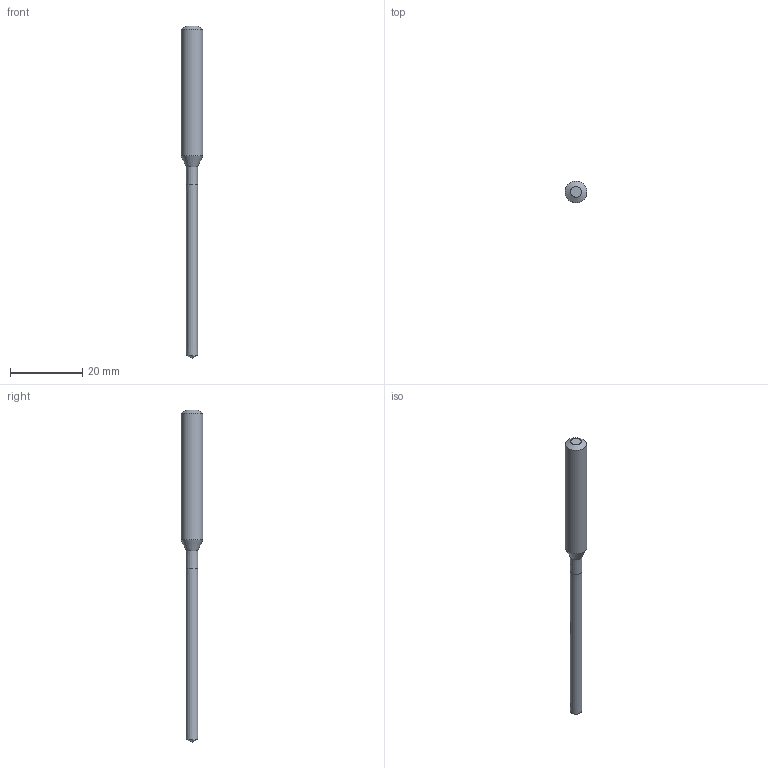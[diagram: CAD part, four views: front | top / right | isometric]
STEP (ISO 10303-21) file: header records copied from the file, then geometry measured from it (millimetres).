
FILE_DESCRIPTION(/* description */ (''),/* implementation_level */ '2;1');
FILE_NAME(/* name */ 'CAD_6618749_MOD_003_003_FR.stp',/* time_stamp */ '2014-06-14T09:44:59+02:00',/* author */ ('VR - Julian Pauli'),/* organization */ ('Walter AG'),/* preprocessor_version */ 'ST-DEVELOPER v11',/* originating_system */ 'SIEMENS UGS NX 6.0',/* authorisation */ '');
FILE_SCHEMA (('AUTOMOTIVE_DESIGN { 1 0 10303 214 1 1 1 1 }'));
Length unit declared in the file: millimetre
Products named in the file (1): DC150-6618749_simple
Bounding box: 6 x 6 x 92 mm (x, y, z)
Volume: 1475.4 mm3; surface area: 1288.7 mm2
Topology: 2 solids, 2 shells, 9 faces, 18 edges, 14 vertices
Faces by surface type: cone 5, plane 3, cylinder 1
Full cylindrical faces by diameter (mm): 6 x1
Entity records: 216 total; most frequent: DIRECTION 36, CARTESIAN_POINT 27, AXIS2_PLACEMENT_3D 17, EDGE_LOOP 14, ORIENTED_EDGE 14, FACE_BOUND 12, ADVANCED_FACE 9, VERTEX_POINT 8
